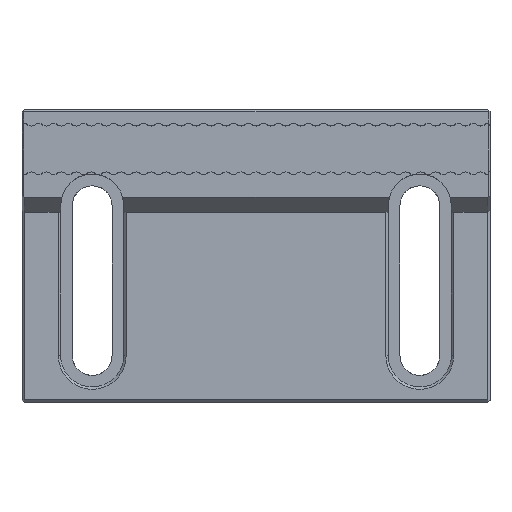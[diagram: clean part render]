
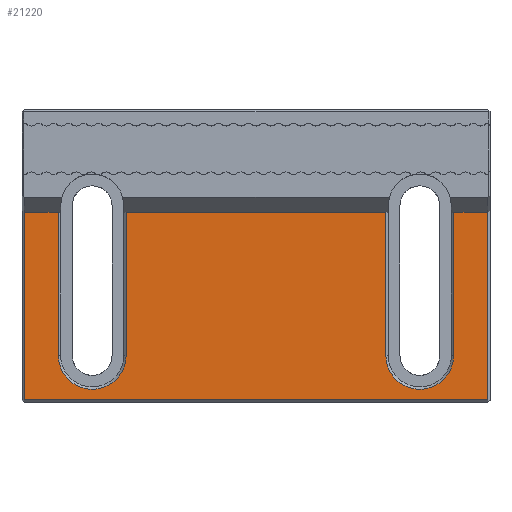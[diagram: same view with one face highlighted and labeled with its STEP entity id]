
A CAD part, top view. The second image highlights one B-rep face of the part: STEP entity #21220.
In plain terms, the highlighted planar face has unit normal (0, 0, 1).
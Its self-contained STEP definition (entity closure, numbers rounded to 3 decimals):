
#20991=CARTESIAN_POINT('',(144.955,124.77,132.884));
#20992=VERTEX_POINT('',#20991);
#20999=CARTESIAN_POINT('',(152.205,124.77,132.884));
#21000=VERTEX_POINT('',#20999);
#21001=CARTESIAN_POINT('',(152.205,124.77,132.884));
#21002=DIRECTION('',(-1.,-0.,0.));
#21003=VECTOR('',#21002,7.25);
#21004=LINE('',#21001,#21003);
#21005=EDGE_CURVE('',#21000,#20992,#21004,.T.);
#21053=CARTESIAN_POINT('',(166.705,124.77,132.884));
#21054=VERTEX_POINT('',#21053);
#21061=CARTESIAN_POINT('',(222.205,124.77,132.884));
#21062=VERTEX_POINT('',#21061);
#21063=CARTESIAN_POINT('',(222.205,124.77,132.884));
#21064=DIRECTION('',(-1.,-0.,0.));
#21065=VECTOR('',#21064,55.5);
#21066=LINE('',#21063,#21065);
#21067=EDGE_CURVE('',#21062,#21054,#21066,.T.);
#21100=CARTESIAN_POINT('',(243.955,124.77,132.884));
#21101=VERTEX_POINT('',#21100);
#21102=CARTESIAN_POINT('',(236.705,124.77,132.884));
#21103=VERTEX_POINT('',#21102);
#21104=CARTESIAN_POINT('',(243.955,124.77,132.884));
#21105=DIRECTION('',(-1.,-0.,0.));
#21106=VECTOR('',#21105,7.25);
#21107=LINE('',#21104,#21106);
#21108=EDGE_CURVE('',#21101,#21103,#21107,.T.);
#21142=CARTESIAN_POINT('',(244.455,125.347,132.884));
#21143=DIRECTION('',(0.,-0.,1.));
#21144=DIRECTION('',(1.,0.,0.));
#21145=AXIS2_PLACEMENT_3D('',#21142,#21143,#21144);
#21146=PLANE('',#21145);
#21147=ORIENTED_EDGE('',*,*,#21005,.T.);
#21148=CARTESIAN_POINT('',(144.955,84.658,132.884));
#21149=VERTEX_POINT('',#21148);
#21150=CARTESIAN_POINT('',(144.955,84.658,132.884));
#21151=DIRECTION('',(-0.,1.,0.));
#21152=VECTOR('',#21151,40.112);
#21153=LINE('',#21150,#21152);
#21154=EDGE_CURVE('',#21149,#20992,#21153,.T.);
#21155=ORIENTED_EDGE('',*,*,#21154,.F.);
#21156=CARTESIAN_POINT('',(243.955,84.658,132.884));
#21157=VERTEX_POINT('',#21156);
#21158=CARTESIAN_POINT('',(243.955,84.658,132.884));
#21159=DIRECTION('',(-1.,-0.,0.));
#21160=VECTOR('',#21159,99.);
#21161=LINE('',#21158,#21160);
#21162=EDGE_CURVE('',#21157,#21149,#21161,.T.);
#21163=ORIENTED_EDGE('',*,*,#21162,.F.);
#21164=CARTESIAN_POINT('',(243.955,124.77,132.884));
#21165=DIRECTION('',(-0.,-1.,-0.));
#21166=VECTOR('',#21165,40.112);
#21167=LINE('',#21164,#21166);
#21168=EDGE_CURVE('',#21101,#21157,#21167,.T.);
#21169=ORIENTED_EDGE('',*,*,#21168,.F.);
#21170=ORIENTED_EDGE('',*,*,#21108,.T.);
#21171=CARTESIAN_POINT('',(236.705,94.158,132.884));
#21172=VERTEX_POINT('',#21171);
#21173=CARTESIAN_POINT('',(236.705,94.158,132.884));
#21174=DIRECTION('',(-0.,1.,0.));
#21175=VECTOR('',#21174,30.612);
#21176=LINE('',#21173,#21175);
#21177=EDGE_CURVE('',#21172,#21103,#21176,.T.);
#21178=ORIENTED_EDGE('',*,*,#21177,.F.);
#21179=CARTESIAN_POINT('',(222.205,94.158,132.884));
#21180=VERTEX_POINT('',#21179);
#21181=CARTESIAN_POINT('',(229.455,94.158,132.884));
#21182=DIRECTION('',(0.,0.,1.));
#21183=DIRECTION('',(1.,0.,-0.));
#21184=AXIS2_PLACEMENT_3D('',#21181,#21182,#21183);
#21185=CIRCLE('',#21184,7.25);
#21186=EDGE_CURVE('',#21180,#21172,#21185,.T.);
#21187=ORIENTED_EDGE('',*,*,#21186,.F.);
#21188=CARTESIAN_POINT('',(222.205,124.77,132.884));
#21189=DIRECTION('',(-0.,-1.,-0.));
#21190=VECTOR('',#21189,30.612);
#21191=LINE('',#21188,#21190);
#21192=EDGE_CURVE('',#21062,#21180,#21191,.T.);
#21193=ORIENTED_EDGE('',*,*,#21192,.F.);
#21194=ORIENTED_EDGE('',*,*,#21067,.T.);
#21195=CARTESIAN_POINT('',(166.705,94.158,132.884));
#21196=VERTEX_POINT('',#21195);
#21197=CARTESIAN_POINT('',(166.705,94.158,132.884));
#21198=DIRECTION('',(-0.,1.,0.));
#21199=VECTOR('',#21198,30.612);
#21200=LINE('',#21197,#21199);
#21201=EDGE_CURVE('',#21196,#21054,#21200,.T.);
#21202=ORIENTED_EDGE('',*,*,#21201,.F.);
#21203=CARTESIAN_POINT('',(152.205,94.158,132.884));
#21204=VERTEX_POINT('',#21203);
#21205=CARTESIAN_POINT('',(159.455,94.158,132.884));
#21206=DIRECTION('',(0.,0.,1.));
#21207=DIRECTION('',(1.,0.,-0.));
#21208=AXIS2_PLACEMENT_3D('',#21205,#21206,#21207);
#21209=CIRCLE('',#21208,7.25);
#21210=EDGE_CURVE('',#21204,#21196,#21209,.T.);
#21211=ORIENTED_EDGE('',*,*,#21210,.F.);
#21212=CARTESIAN_POINT('',(152.205,124.77,132.884));
#21213=DIRECTION('',(-0.,-1.,-0.));
#21214=VECTOR('',#21213,30.612);
#21215=LINE('',#21212,#21214);
#21216=EDGE_CURVE('',#21000,#21204,#21215,.T.);
#21217=ORIENTED_EDGE('',*,*,#21216,.F.);
#21218=EDGE_LOOP('',(#21147,#21155,#21163,#21169,#21170,#21178,#21187,#21193,#21194,#21202,#21211,#21217));
#21219=FACE_BOUND('',#21218,.T.);
#21220=ADVANCED_FACE('',(#21219),#21146,.T.);
